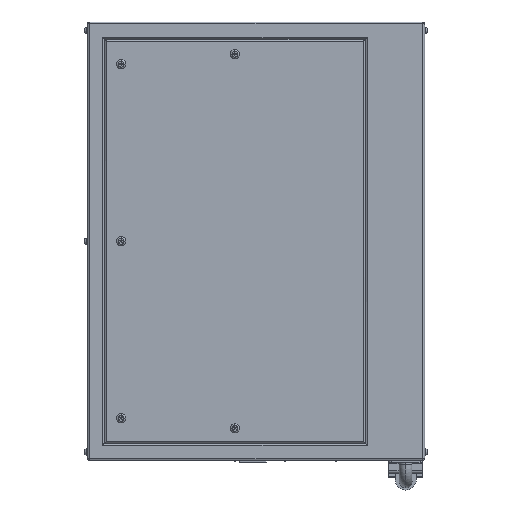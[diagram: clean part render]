
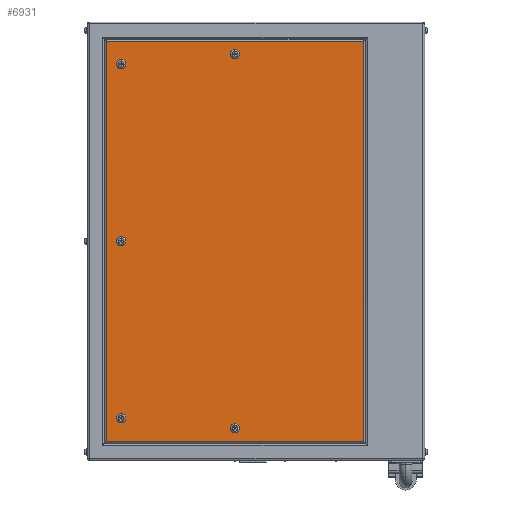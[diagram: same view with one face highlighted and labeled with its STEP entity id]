
A CAD part, left-side view. The second image highlights one B-rep face of the part: STEP entity #6931.
In plain terms, the highlighted planar face has unit normal (-1, 0, 0).
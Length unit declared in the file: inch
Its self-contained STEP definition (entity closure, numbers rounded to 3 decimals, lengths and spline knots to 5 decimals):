
#380 = DIRECTION ( 'NONE',  ( 1., 0., 0. ) ) ;
#519 = CIRCLE ( 'NONE', #23870, 0.55 ) ;
#717 = VERTEX_POINT ( 'NONE', #1169 ) ;
#864 = VERTEX_POINT ( 'NONE', #6053 ) ;
#891 = VERTEX_POINT ( 'NONE', #8794 ) ;
#1062 = DIRECTION ( 'NONE',  ( 1., 0., 0. ) ) ;
#1073 = CARTESIAN_POINT ( 'NONE',  ( -11., 16., -21.55 ) ) ;
#1169 = CARTESIAN_POINT ( 'NONE',  ( -11., 16., 0.55 ) ) ;
#1230 = AXIS2_PLACEMENT_3D ( 'NONE', #16885, #380, #22909 ) ;
#1579 = DIRECTION ( 'NONE',  ( 0., 0., 1. ) ) ;
#1839 = EDGE_CURVE ( 'NONE', #20692, #22425, #7185, .T. ) ;
#2041 = DIRECTION ( 'NONE',  ( 1., 0., 0. ) ) ;
#2056 = CIRCLE ( 'NONE', #19516, 0.55 ) ;
#2103 = ORIENTED_EDGE ( 'NONE', *, *, #21129, .T. ) ;
#2192 = LINE ( 'NONE', #9852, #12037 ) ;
#2343 = DIRECTION ( 'NONE',  ( 0., 0., -1. ) ) ;
#2429 = DIRECTION ( 'NONE',  ( 0., 0., 1. ) ) ;
#2432 = EDGE_CURVE ( 'NONE', #12683, #2633, #13839, .T. ) ;
#2477 = FACE_BOUND ( 'NONE', #7152, .T. ) ;
#2599 = FACE_BOUND ( 'NONE', #21467, .T. ) ;
#2633 = VERTEX_POINT ( 'NONE', #14094 ) ;
#2714 = FACE_OUTER_BOUND ( 'NONE', #10519, .T. ) ;
#2827 = DIRECTION ( 'NONE',  ( 0., 0., -1. ) ) ;
#2940 = AXIS2_PLACEMENT_3D ( 'NONE', #10338, #1062, #16103 ) ;
#3392 = CARTESIAN_POINT ( 'NONE',  ( -11., 16., 21. ) ) ;
#4347 = CARTESIAN_POINT ( 'NONE',  ( -11., 2.5, -22.74 ) ) ;
#5165 = VERTEX_POINT ( 'NONE', #19692 ) ;
#5987 = ORIENTED_EDGE ( 'NONE', *, *, #13109, .T. ) ;
#6009 = CARTESIAN_POINT ( 'NONE',  ( -11., 17.74, 23.74 ) ) ;
#6053 = CARTESIAN_POINT ( 'NONE',  ( -11., -12.74, 23.74 ) ) ;
#6361 = CARTESIAN_POINT ( 'NONE',  ( -11., 16., -20.45 ) ) ;
#6364 = EDGE_CURVE ( 'NONE', #5165, #864, #2192, .T. ) ;
#6819 = LINE ( 'NONE', #10429, #12164 ) ;
#6915 = AXIS2_PLACEMENT_3D ( 'NONE', #3392, #22376, #8983 ) ;
#6931 = ADVANCED_FACE ( 'NONE', ( #2477, #2599, #17130, #22787, #21091, #2714 ), #13857, .F. ) ;
#7152 = EDGE_LOOP ( 'NONE', ( #5987, #23627 ) ) ;
#7185 = CIRCLE ( 'NONE', #17543, 0.55 ) ;
#7294 = CARTESIAN_POINT ( 'NONE',  ( -11., 2.5, 22.19 ) ) ;
#7630 = EDGE_CURVE ( 'NONE', #2633, #12683, #14009, .T. ) ;
#7934 = CIRCLE ( 'NONE', #11479, 0.55 ) ;
#8146 = VECTOR ( 'NONE', #12472, 39.37008 ) ;
#8624 = CARTESIAN_POINT ( 'NONE',  ( -11., 16., 0. ) ) ;
#8794 = CARTESIAN_POINT ( 'NONE',  ( -11., 16., -0.55 ) ) ;
#8818 = ORIENTED_EDGE ( 'NONE', *, *, #1839, .T. ) ;
#8983 = DIRECTION ( 'NONE',  ( 0., 0., -1. ) ) ;
#9059 = DIRECTION ( 'NONE',  ( 1., 0., 0. ) ) ;
#9326 = ORIENTED_EDGE ( 'NONE', *, *, #16623, .T. ) ;
#9485 = ORIENTED_EDGE ( 'NONE', *, *, #2432, .T. ) ;
#9852 = CARTESIAN_POINT ( 'NONE',  ( -11., -12.74, -26. ) ) ;
#9958 = VERTEX_POINT ( 'NONE', #6361 ) ;
#10127 = AXIS2_PLACEMENT_3D ( 'NONE', #23519, #9059, #18246 ) ;
#10338 = CARTESIAN_POINT ( 'NONE',  ( -11., 16., 0. ) ) ;
#10396 = CARTESIAN_POINT ( 'NONE',  ( -11., 17.74, -23.74 ) ) ;
#10429 = CARTESIAN_POINT ( 'NONE',  ( -11., 17.74, -26. ) ) ;
#10519 = EDGE_LOOP ( 'NONE', ( #9326, #11375, #20497, #18053 ) ) ;
#10552 = ORIENTED_EDGE ( 'NONE', *, *, #21618, .T. ) ;
#10781 = DIRECTION ( 'NONE',  ( 1., 0., 0. ) ) ;
#10914 = DIRECTION ( 'NONE',  ( 0., 0., -1. ) ) ;
#11375 = ORIENTED_EDGE ( 'NONE', *, *, #6364, .T. ) ;
#11479 = AXIS2_PLACEMENT_3D ( 'NONE', #8624, #14053, #21292 ) ;
#11622 = ORIENTED_EDGE ( 'NONE', *, *, #23685, .T. ) ;
#11797 = VERTEX_POINT ( 'NONE', #18596 ) ;
#11804 = VERTEX_POINT ( 'NONE', #6009 ) ;
#11921 = CARTESIAN_POINT ( 'NONE',  ( -11., 2.5, 22.74 ) ) ;
#12020 = DIRECTION ( 'NONE',  ( 0., 0., -1. ) ) ;
#12037 = VECTOR ( 'NONE', #2429, 39.37008 ) ;
#12164 = VECTOR ( 'NONE', #12020, 39.37008 ) ;
#12432 = CIRCLE ( 'NONE', #13550, 0.55 ) ;
#12472 = DIRECTION ( 'NONE',  ( 0., -1., 0. ) ) ;
#12683 = VERTEX_POINT ( 'NONE', #14495 ) ;
#12984 = AXIS2_PLACEMENT_3D ( 'NONE', #14081, #15665, #2827 ) ;
#13109 = EDGE_CURVE ( 'NONE', #17620, #11797, #12432, .T. ) ;
#13382 = CARTESIAN_POINT ( 'NONE',  ( -11., 16., -21. ) ) ;
#13394 = DIRECTION ( 'NONE',  ( 0., 0., -1. ) ) ;
#13550 = AXIS2_PLACEMENT_3D ( 'NONE', #22381, #2041, #18544 ) ;
#13733 = ORIENTED_EDGE ( 'NONE', *, *, #19514, .T. ) ;
#13748 = CARTESIAN_POINT ( 'NONE',  ( -11., 20., -26. ) ) ;
#13839 = CIRCLE ( 'NONE', #6915, 0.55 ) ;
#13857 = PLANE ( 'NONE',  #20948 ) ;
#14009 = CIRCLE ( 'NONE', #1230, 0.55 ) ;
#14053 = DIRECTION ( 'NONE',  ( 1., 0., 0. ) ) ;
#14081 = CARTESIAN_POINT ( 'NONE',  ( -11., 16., -21. ) ) ;
#14094 = CARTESIAN_POINT ( 'NONE',  ( -11., 16., 20.45 ) ) ;
#14380 = CARTESIAN_POINT ( 'NONE',  ( -11., 20., 23.74 ) ) ;
#14495 = CARTESIAN_POINT ( 'NONE',  ( -11., 16., 21.55 ) ) ;
#15346 = EDGE_LOOP ( 'NONE', ( #15709, #9485 ) ) ;
#15434 = DIRECTION ( 'NONE',  ( 1., 0., 0. ) ) ;
#15665 = DIRECTION ( 'NONE',  ( 1., 0., 0. ) ) ;
#15709 = ORIENTED_EDGE ( 'NONE', *, *, #7630, .T. ) ;
#16103 = DIRECTION ( 'NONE',  ( 0., 0., -1. ) ) ;
#16177 = LINE ( 'NONE', #14380, #16778 ) ;
#16575 = DIRECTION ( 'NONE',  ( 1., 0., 0. ) ) ;
#16623 = EDGE_CURVE ( 'NONE', #23997, #5165, #19896, .T. ) ;
#16667 = CIRCLE ( 'NONE', #10127, 0.55 ) ;
#16778 = VECTOR ( 'NONE', #19907, 39.37008 ) ;
#16885 = CARTESIAN_POINT ( 'NONE',  ( -11., 16., 21. ) ) ;
#17130 = FACE_BOUND ( 'NONE', #22026, .T. ) ;
#17543 = AXIS2_PLACEMENT_3D ( 'NONE', #7294, #10781, #10914 ) ;
#17620 = VERTEX_POINT ( 'NONE', #4347 ) ;
#17896 = VERTEX_POINT ( 'NONE', #1073 ) ;
#17982 = EDGE_CURVE ( 'NONE', #11797, #17620, #2056, .T. ) ;
#18053 = ORIENTED_EDGE ( 'NONE', *, *, #22752, .T. ) ;
#18246 = DIRECTION ( 'NONE',  ( 0., 0., -1. ) ) ;
#18252 = EDGE_CURVE ( 'NONE', #22425, #20692, #16667, .T. ) ;
#18544 = DIRECTION ( 'NONE',  ( 0., 0., 1. ) ) ;
#18596 = CARTESIAN_POINT ( 'NONE',  ( -11., 2.5, -21.64 ) ) ;
#18970 = DIRECTION ( 'NONE',  ( 1., 0., 0. ) ) ;
#19015 = EDGE_CURVE ( 'NONE', #864, #11804, #16177, .T. ) ;
#19514 = EDGE_CURVE ( 'NONE', #17896, #9958, #23473, .T. ) ;
#19516 = AXIS2_PLACEMENT_3D ( 'NONE', #23830, #16575, #1579 ) ;
#19692 = CARTESIAN_POINT ( 'NONE',  ( -11., -12.74, -23.74 ) ) ;
#19896 = LINE ( 'NONE', #21741, #8146 ) ;
#19907 = DIRECTION ( 'NONE',  ( 0., 1., 0. ) ) ;
#20295 = EDGE_LOOP ( 'NONE', ( #11622, #10552 ) ) ;
#20429 = CIRCLE ( 'NONE', #2940, 0.55 ) ;
#20497 = ORIENTED_EDGE ( 'NONE', *, *, #19015, .T. ) ;
#20692 = VERTEX_POINT ( 'NONE', #11921 ) ;
#20948 = AXIS2_PLACEMENT_3D ( 'NONE', #13748, #15434, #13394 ) ;
#21091 = FACE_BOUND ( 'NONE', #15346, .T. ) ;
#21129 = EDGE_CURVE ( 'NONE', #9958, #17896, #519, .T. ) ;
#21292 = DIRECTION ( 'NONE',  ( 0., 0., -1. ) ) ;
#21467 = EDGE_LOOP ( 'NONE', ( #21705, #8818 ) ) ;
#21618 = EDGE_CURVE ( 'NONE', #717, #891, #7934, .T. ) ;
#21705 = ORIENTED_EDGE ( 'NONE', *, *, #18252, .T. ) ;
#21741 = CARTESIAN_POINT ( 'NONE',  ( -11., 20., -23.74 ) ) ;
#22026 = EDGE_LOOP ( 'NONE', ( #13733, #2103 ) ) ;
#22376 = DIRECTION ( 'NONE',  ( 1., 0., 0. ) ) ;
#22381 = CARTESIAN_POINT ( 'NONE',  ( -11., 2.5, -22.19 ) ) ;
#22425 = VERTEX_POINT ( 'NONE', #23843 ) ;
#22752 = EDGE_CURVE ( 'NONE', #11804, #23997, #6819, .T. ) ;
#22787 = FACE_BOUND ( 'NONE', #20295, .T. ) ;
#22909 = DIRECTION ( 'NONE',  ( 0., 0., -1. ) ) ;
#23473 = CIRCLE ( 'NONE', #12984, 0.55 ) ;
#23519 = CARTESIAN_POINT ( 'NONE',  ( -11., 2.5, 22.19 ) ) ;
#23627 = ORIENTED_EDGE ( 'NONE', *, *, #17982, .T. ) ;
#23685 = EDGE_CURVE ( 'NONE', #891, #717, #20429, .T. ) ;
#23830 = CARTESIAN_POINT ( 'NONE',  ( -11., 2.5, -22.19 ) ) ;
#23843 = CARTESIAN_POINT ( 'NONE',  ( -11., 2.5, 21.64 ) ) ;
#23870 = AXIS2_PLACEMENT_3D ( 'NONE', #13382, #18970, #2343 ) ;
#23997 = VERTEX_POINT ( 'NONE', #10396 ) ;
